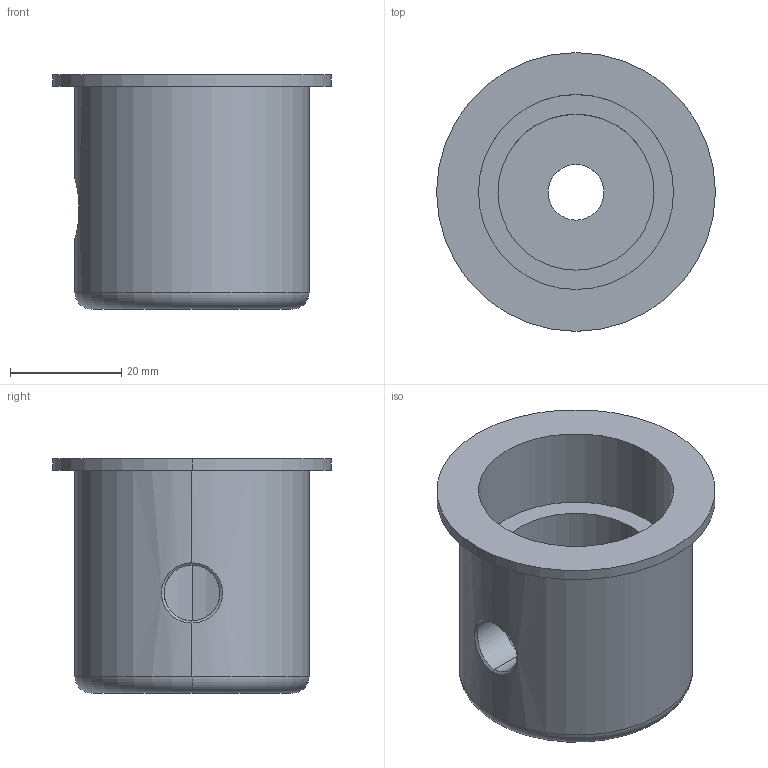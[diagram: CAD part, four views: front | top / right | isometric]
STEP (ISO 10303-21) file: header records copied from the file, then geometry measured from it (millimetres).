
FILE_DESCRIPTION (( 'STEP AP214' ), '1' );
FILE_NAME ('Êàìåðà íîâàÿ.STEP', '2025-05-06T06:06:33', ( '' ), ( '' ), 'SwSTEP 2.0', 'SolidWorks 2022', '' );
FILE_SCHEMA (( 'AUTOMOTIVE_DESIGN' ));
Length unit declared in the file: millimetre
Products named in the file (1): Камера новая
Bounding box: 50 x 50 x 42 mm (x, y, z)
Volume: 31238.9 mm3; surface area: 12865 mm2
Topology: 1 solids, 1 shells, 23 faces, 52 edges, 32 vertices
Faces by surface type: cylinder 12, plane 5, bspline 2, cone 2, torus 2
Entity records: 2534 total; most frequent: CARTESIAN_POINT 1934, DIRECTION 112, ORIENTED_EDGE 104, EDGE_CURVE 52, AXIS2_PLACEMENT_3D 48, VERTEX_POINT 32, EDGE_LOOP 28, CIRCLE 26
